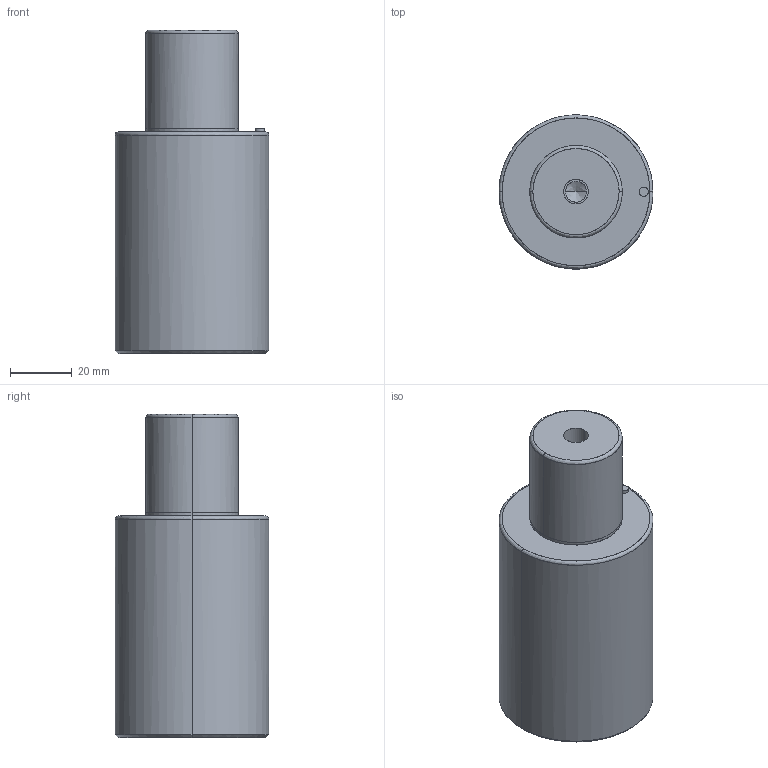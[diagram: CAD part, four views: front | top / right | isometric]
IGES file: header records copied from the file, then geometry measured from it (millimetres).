
Global section: file name: E:\UnigraphicsGraphicData\MISUMI_PRESS-PARTS\IGES\3d_gsc50-32_03834_r00.igs; native system: NX V5.0; preprocessor: UGS NX IGES V5.0; author: MISUMI; date: 20110105.160749; units: millimetre
Bounding box: 50 x 49.98 x 105 mm (x, y, z)
Surface area: 19039.9 mm2 (no closed solid volume)
Topology: 0 solids, 0 shells, 32 faces, 232 edges, 228 vertices
Faces by surface type: bspline 32
